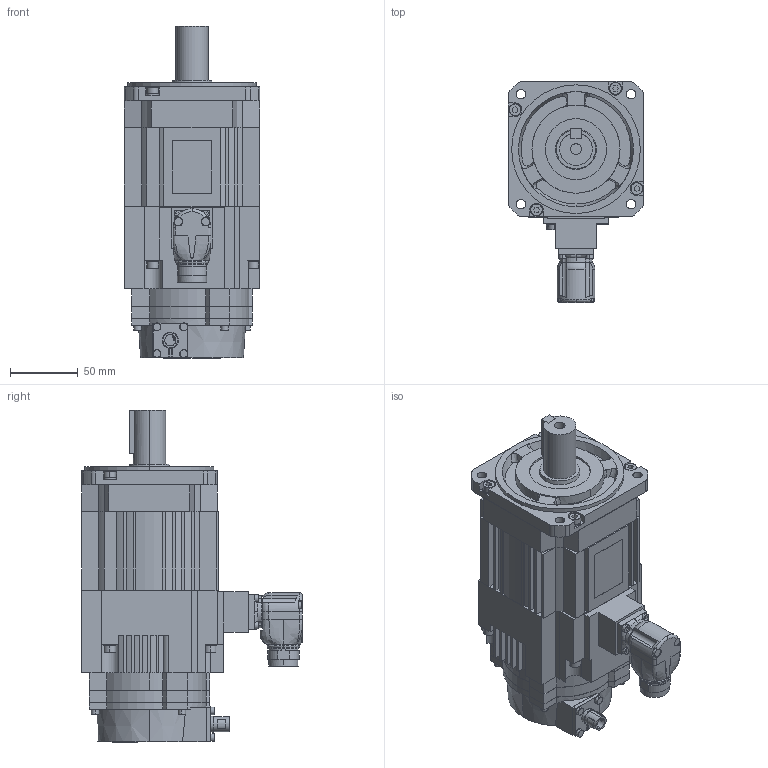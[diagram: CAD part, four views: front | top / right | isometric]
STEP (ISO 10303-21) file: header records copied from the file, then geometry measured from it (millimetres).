
FILE_DESCRIPTION (( 'STEP AP203' ), '1' );
FILE_NAME ('sgm7a_15d_f6h.STEP', '2016-03-01T06:59:22', ( '匠エンジニアリング山之内' ), ( 'TAKUMI-Engniaring' ), 'SwSTEP 2.0', 'SolidWorks 2006303', '' );
FILE_SCHEMA (( 'CONFIG_CONTROL_DESIGN' ));
Length unit declared in the file: millimetre
Products named in the file (4): sgm7a_15d_f6h; sgm7a_15d_f6h_base; sgm7a_15d_f6h_key; sgm7a_15d_f6h_connector
Assembly tree (3 placements, depth 2):
  sgm7a_15d_f6h
    sgm7a_15d_f6h_connector
    sgm7a_15d_f6h_base
    sgm7a_15d_f6h_key
Bounding box: 100 x 163 x 245.1 mm (x, y, z)
Volume: 1664757.8 mm3; surface area: 138685.6 mm2
Topology: 3 solids, 3 shells, 857 faces, 2254 edges, 1478 vertices
Faces by surface type: plane 559, cylinder 250, bspline 32, torus 9, cone 7
Entity records: 28363 total; most frequent: CARTESIAN_POINT 6564, ORIENTED_EDGE 4504, DIRECTION 4397, EDGE_CURVE 2252, LINE 1531, VECTOR 1531, VERTEX_POINT 1478, AXIS2_PLACEMENT_3D 1433
